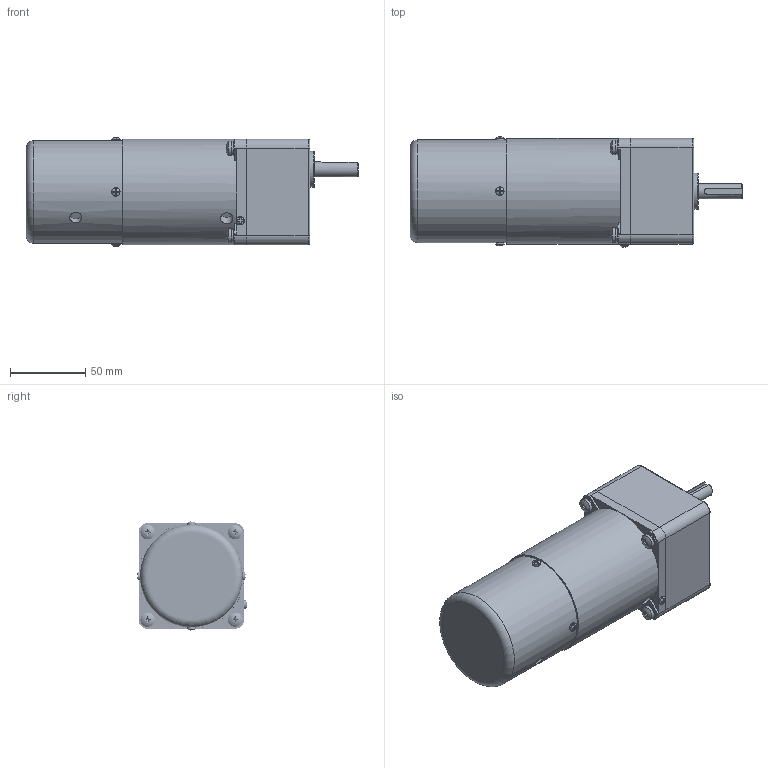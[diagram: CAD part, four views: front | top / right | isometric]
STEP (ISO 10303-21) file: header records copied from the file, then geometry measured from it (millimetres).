
FILE_DESCRIPTION(/* description */ (''),/* implementation_level */ '2;1');
FILE_NAME(/* name */ '70高箱L-25车调速.stp',/* time_stamp */ '2022-10-31T09:53:22+08:00',/* author */ (''),/* organization */ (''),/* preprocessor_version */ 'ST-DEVELOPER v16.7',/* originating_system */ 'SIEMENS PLM Software NX 1899',/* authorisation */ '');
FILE_SCHEMA (('AP203_CONFIGURATION_CONTROLLED_3D_DESIGN_OF_MECHANICAL_PARTS_AND_ASSEMBLIES_MIM_LF { 1 0 10303 403 2 1 2}'));
Products named in the file (1): yf186188FEB6lcgp
Bounding box: 220 x 73.18 x 72.28 mm (x, y, z)
Volume: 762899.4 mm3; surface area: 72547.2 mm2
Topology: 14 solids, 15 shells, 355 faces, 912 edges, 608 vertices
Faces by surface type: plane 171, bspline 88, cylinder 69, torus 11, sphere 9, cone 7
Full cylindrical faces by diameter (mm): 2.7 x1, 4.826 x4, 5 x4, 5.3 x4, 5.6 x5, 6 x5, 8 x1, 8.3 x1, 9 x4, 9.5 x4, 10 x1, 24 x1, 63 x1, 66.6 x2, 68 x1, 70 x1
Entity records: 70895 total; most frequent: CARTESIAN_POINT 62890, ORIENTED_EDGE 1608, DIRECTION 1347, EDGE_CURVE 804, VERTEX_POINT 562, AXIS2_PLACEMENT_3D 536, EDGE_LOOP 461, ADVANCED_FACE 355
